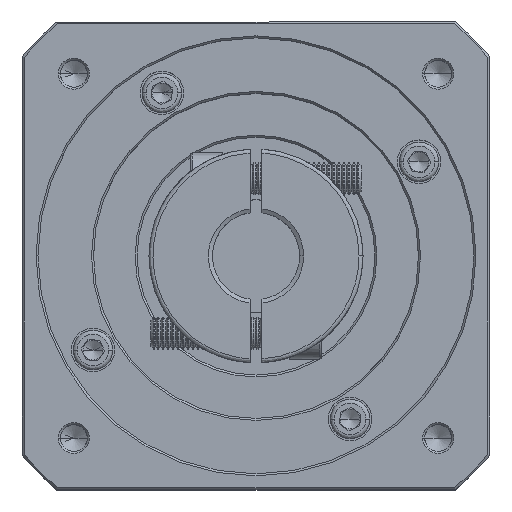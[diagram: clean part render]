
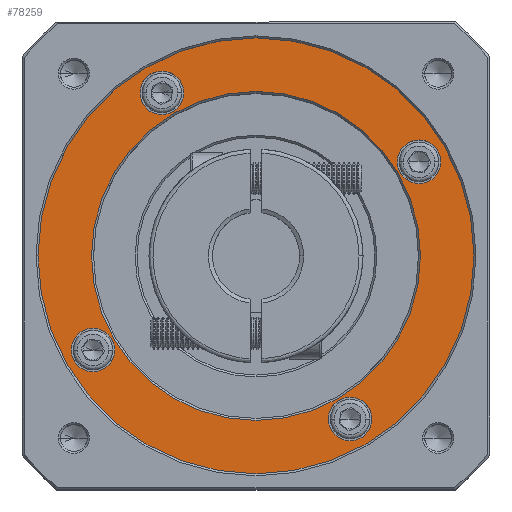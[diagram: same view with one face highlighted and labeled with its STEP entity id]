
A CAD part, top view. The second image highlights one B-rep face of the part: STEP entity #78259.
In plain terms, the highlighted planar face has unit normal (0, 0, 1).
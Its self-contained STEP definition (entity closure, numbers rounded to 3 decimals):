
#1234 = CIRCLE ( 'NONE', #104041, 5.5 ) ;
#1693 = CARTESIAN_POINT ( 'NONE',  ( -125.682, 20.191, 88.309 ) ) ;
#2640 = CARTESIAN_POINT ( 'NONE',  ( -179.569, 37.577, 88.309 ) ) ;
#3062 = VERTEX_POINT ( 'NONE', #68859 ) ;
#4343 = DIRECTION ( 'NONE',  ( 0., 0., -1. ) ) ;
#5048 = EDGE_CURVE ( 'NONE', #38776, #80377, #78152, .T. ) ;
#5551 = EDGE_LOOP ( 'NONE', ( #30080, #64919 ) ) ;
#6175 = ORIENTED_EDGE ( 'NONE', *, *, #29350, .T. ) ;
#6582 = VERTEX_POINT ( 'NONE', #123427 ) ;
#6807 = FACE_BOUND ( 'NONE', #107197, .T. ) ;
#8729 = DIRECTION ( 'NONE',  ( 1., 0., 0. ) ) ;
#13012 = CARTESIAN_POINT ( 'NONE',  ( -143.932, 61.327, 88.309 ) ) ;
#13135 = DIRECTION ( 'NONE',  ( 1., 0., 0. ) ) ;
#13638 = ORIENTED_EDGE ( 'NONE', *, *, #25129, .T. ) ;
#13846 = DIRECTION ( 'NONE',  ( 0., 0., -1. ) ) ;
#14775 = EDGE_LOOP ( 'NONE', ( #98385, #64587 ) ) ;
#17011 = DIRECTION ( 'NONE',  ( 1., 0., 0. ) ) ;
#17284 = DIRECTION ( 'NONE',  ( 0., 0., -1. ) ) ;
#17288 = AXIS2_PLACEMENT_3D ( 'NONE', #111693, #122496, #13135 ) ;
#18030 = AXIS2_PLACEMENT_3D ( 'NONE', #34120, #64369, #74339 ) ;
#19252 = AXIS2_PLACEMENT_3D ( 'NONE', #58938, #97413, #8729 ) ;
#22714 = VERTEX_POINT ( 'NONE', #75915 ) ;
#24289 = DIRECTION ( 'NONE',  ( 1., 0., 0. ) ) ;
#25129 = EDGE_CURVE ( 'NONE', #106418, #6582, #1234, .T. ) ;
#28069 = DIRECTION ( 'NONE',  ( 1., 0., 0. ) ) ;
#29350 = EDGE_CURVE ( 'NONE', #3062, #128022, #113038, .T. ) ;
#29415 = ORIENTED_EDGE ( 'NONE', *, *, #76032, .T. ) ;
#30080 = ORIENTED_EDGE ( 'NONE', *, *, #111672, .T. ) ;
#30740 = DIRECTION ( 'NONE',  ( 1., 0., 0. ) ) ;
#33051 = CIRCLE ( 'NONE', #44720, 55. ) ;
#33119 = FACE_BOUND ( 'NONE', #120219, .T. ) ;
#34120 = CARTESIAN_POINT ( 'NONE',  ( -143.932, 61.327, 88.309 ) ) ;
#36258 = FACE_BOUND ( 'NONE', #14775, .T. ) ;
#36723 = CARTESIAN_POINT ( 'NONE',  ( -120.182, 20.191, 88.309 ) ) ;
#37517 = CARTESIAN_POINT ( 'NONE',  ( -143.932, 61.327, 88.309 ) ) ;
#38776 = VERTEX_POINT ( 'NONE', #88630 ) ;
#40986 = CIRCLE ( 'NONE', #92631, 41.5 ) ;
#41549 = CIRCLE ( 'NONE', #79754, 5.5 ) ;
#43243 = DIRECTION ( 'NONE',  ( 0., 0., 1. ) ) ;
#44660 = ORIENTED_EDGE ( 'NONE', *, *, #77955, .T. ) ;
#44720 = AXIS2_PLACEMENT_3D ( 'NONE', #116647, #98067, #28069 ) ;
#45813 = DIRECTION ( 'NONE',  ( 1., 0., 0. ) ) ;
#52007 = AXIS2_PLACEMENT_3D ( 'NONE', #88715, #98658, #30740 ) ;
#53703 = DIRECTION ( 'NONE',  ( 0., 0., -1. ) ) ;
#53945 = EDGE_CURVE ( 'NONE', #6582, #106418, #107071, .T. ) ;
#53966 = ORIENTED_EDGE ( 'NONE', *, *, #83220, .T. ) ;
#54077 = PLANE ( 'NONE',  #88092 ) ;
#54118 = CARTESIAN_POINT ( 'NONE',  ( -120.182, 20.191, 88.309 ) ) ;
#54129 = CARTESIAN_POINT ( 'NONE',  ( -97.296, 85.077, 88.309 ) ) ;
#55040 = EDGE_CURVE ( 'NONE', #102238, #84973, #41549, .T. ) ;
#56377 = DIRECTION ( 'NONE',  ( 0., 0., -1. ) ) ;
#58938 = CARTESIAN_POINT ( 'NONE',  ( -102.796, 85.077, 88.309 ) ) ;
#62721 = DIRECTION ( 'NONE',  ( 1., 0., 0. ) ) ;
#63457 = CARTESIAN_POINT ( 'NONE',  ( -167.682, 102.463, 88.309 ) ) ;
#64369 = DIRECTION ( 'NONE',  ( 0., 0., 1. ) ) ;
#64587 = ORIENTED_EDGE ( 'NONE', *, *, #103742, .T. ) ;
#64919 = ORIENTED_EDGE ( 'NONE', *, *, #81297, .T. ) ;
#68859 = CARTESIAN_POINT ( 'NONE',  ( -198.932, 61.327, 88.309 ) ) ;
#70496 = CIRCLE ( 'NONE', #73128, 5.5 ) ;
#72721 = DIRECTION ( 'NONE',  ( 0., -1., 0. ) ) ;
#73128 = AXIS2_PLACEMENT_3D ( 'NONE', #115510, #56377, #17011 ) ;
#74339 = DIRECTION ( 'NONE',  ( 1., 0., 0. ) ) ;
#75117 = EDGE_CURVE ( 'NONE', #84715, #98664, #103012, .T. ) ;
#75915 = CARTESIAN_POINT ( 'NONE',  ( -143.932, 102.827, 88.309 ) ) ;
#76032 = EDGE_CURVE ( 'NONE', #128022, #3062, #33051, .T. ) ;
#77955 = EDGE_CURVE ( 'NONE', #80377, #38776, #70496, .T. ) ;
#78056 = FACE_BOUND ( 'NONE', #5551, .T. ) ;
#78152 = CIRCLE ( 'NONE', #52007, 5.5 ) ;
#78259 = ADVANCED_FACE ( 'NONE', ( #81130, #78056, #36258, #6807, #98166, #33119 ), #54077, .T. ) ;
#79754 = AXIS2_PLACEMENT_3D ( 'NONE', #54118, #4343, #24289 ) ;
#80377 = VERTEX_POINT ( 'NONE', #2640 ) ;
#81130 = FACE_OUTER_BOUND ( 'NONE', #116602, .T. ) ;
#81297 = EDGE_CURVE ( 'NONE', #22714, #122243, #40986, .T. ) ;
#82889 = ORIENTED_EDGE ( 'NONE', *, *, #55040, .T. ) ;
#83220 = EDGE_CURVE ( 'NONE', #84973, #102238, #128417, .T. ) ;
#83304 = DIRECTION ( 'NONE',  ( 0., 0., -1. ) ) ;
#83411 = CARTESIAN_POINT ( 'NONE',  ( -167.682, 102.463, 88.309 ) ) ;
#84715 = VERTEX_POINT ( 'NONE', #54129 ) ;
#84973 = VERTEX_POINT ( 'NONE', #1693 ) ;
#88009 = ORIENTED_EDGE ( 'NONE', *, *, #53945, .T. ) ;
#88054 = DIRECTION ( 'NONE',  ( 0., -1., 0. ) ) ;
#88092 = AXIS2_PLACEMENT_3D ( 'NONE', #13012, #43243, #62721 ) ;
#88630 = CARTESIAN_POINT ( 'NONE',  ( -190.569, 37.577, 88.309 ) ) ;
#88715 = CARTESIAN_POINT ( 'NONE',  ( -185.069, 37.577, 88.309 ) ) ;
#90410 = AXIS2_PLACEMENT_3D ( 'NONE', #63457, #83304, #103600 ) ;
#92568 = CARTESIAN_POINT ( 'NONE',  ( -143.932, 19.827, 88.309 ) ) ;
#92631 = AXIS2_PLACEMENT_3D ( 'NONE', #37517, #117868, #88054 ) ;
#93334 = AXIS2_PLACEMENT_3D ( 'NONE', #112907, #53703, #72721 ) ;
#93762 = CIRCLE ( 'NONE', #19252, 5.5 ) ;
#95699 = CARTESIAN_POINT ( 'NONE',  ( -114.682, 20.191, 88.309 ) ) ;
#97413 = DIRECTION ( 'NONE',  ( 0., 0., -1. ) ) ;
#98067 = DIRECTION ( 'NONE',  ( 0., 0., 1. ) ) ;
#98166 = FACE_BOUND ( 'NONE', #122431, .T. ) ;
#98385 = ORIENTED_EDGE ( 'NONE', *, *, #75117, .T. ) ;
#98658 = DIRECTION ( 'NONE',  ( 0., 0., -1. ) ) ;
#98664 = VERTEX_POINT ( 'NONE', #106026 ) ;
#102238 = VERTEX_POINT ( 'NONE', #95699 ) ;
#103012 = CIRCLE ( 'NONE', #17288, 5.5 ) ;
#103600 = DIRECTION ( 'NONE',  ( 1., 0., 0. ) ) ;
#103742 = EDGE_CURVE ( 'NONE', #98664, #84715, #93762, .T. ) ;
#104041 = AXIS2_PLACEMENT_3D ( 'NONE', #83411, #13846, #122772 ) ;
#104316 = CARTESIAN_POINT ( 'NONE',  ( -88.932, 61.327, 88.309 ) ) ;
#106026 = CARTESIAN_POINT ( 'NONE',  ( -108.296, 85.077, 88.309 ) ) ;
#106418 = VERTEX_POINT ( 'NONE', #110127 ) ;
#107071 = CIRCLE ( 'NONE', #90410, 5.5 ) ;
#107197 = EDGE_LOOP ( 'NONE', ( #82889, #53966 ) ) ;
#109361 = ORIENTED_EDGE ( 'NONE', *, *, #5048, .T. ) ;
#110127 = CARTESIAN_POINT ( 'NONE',  ( -173.182, 102.463, 88.309 ) ) ;
#111672 = EDGE_CURVE ( 'NONE', #122243, #22714, #124623, .T. ) ;
#111693 = CARTESIAN_POINT ( 'NONE',  ( -102.796, 85.077, 88.309 ) ) ;
#112907 = CARTESIAN_POINT ( 'NONE',  ( -143.932, 61.327, 88.309 ) ) ;
#113038 = CIRCLE ( 'NONE', #18030, 55. ) ;
#115510 = CARTESIAN_POINT ( 'NONE',  ( -185.069, 37.577, 88.309 ) ) ;
#116602 = EDGE_LOOP ( 'NONE', ( #29415, #6175 ) ) ;
#116647 = CARTESIAN_POINT ( 'NONE',  ( -143.932, 61.327, 88.309 ) ) ;
#117868 = DIRECTION ( 'NONE',  ( 0., 0., -1. ) ) ;
#120219 = EDGE_LOOP ( 'NONE', ( #44660, #109361 ) ) ;
#122243 = VERTEX_POINT ( 'NONE', #92568 ) ;
#122431 = EDGE_LOOP ( 'NONE', ( #88009, #13638 ) ) ;
#122496 = DIRECTION ( 'NONE',  ( 0., 0., -1. ) ) ;
#122772 = DIRECTION ( 'NONE',  ( 1., 0., 0. ) ) ;
#123427 = CARTESIAN_POINT ( 'NONE',  ( -162.182, 102.463, 88.309 ) ) ;
#123494 = AXIS2_PLACEMENT_3D ( 'NONE', #36723, #17284, #45813 ) ;
#124623 = CIRCLE ( 'NONE', #93334, 41.5 ) ;
#128022 = VERTEX_POINT ( 'NONE', #104316 ) ;
#128417 = CIRCLE ( 'NONE', #123494, 5.5 ) ;
